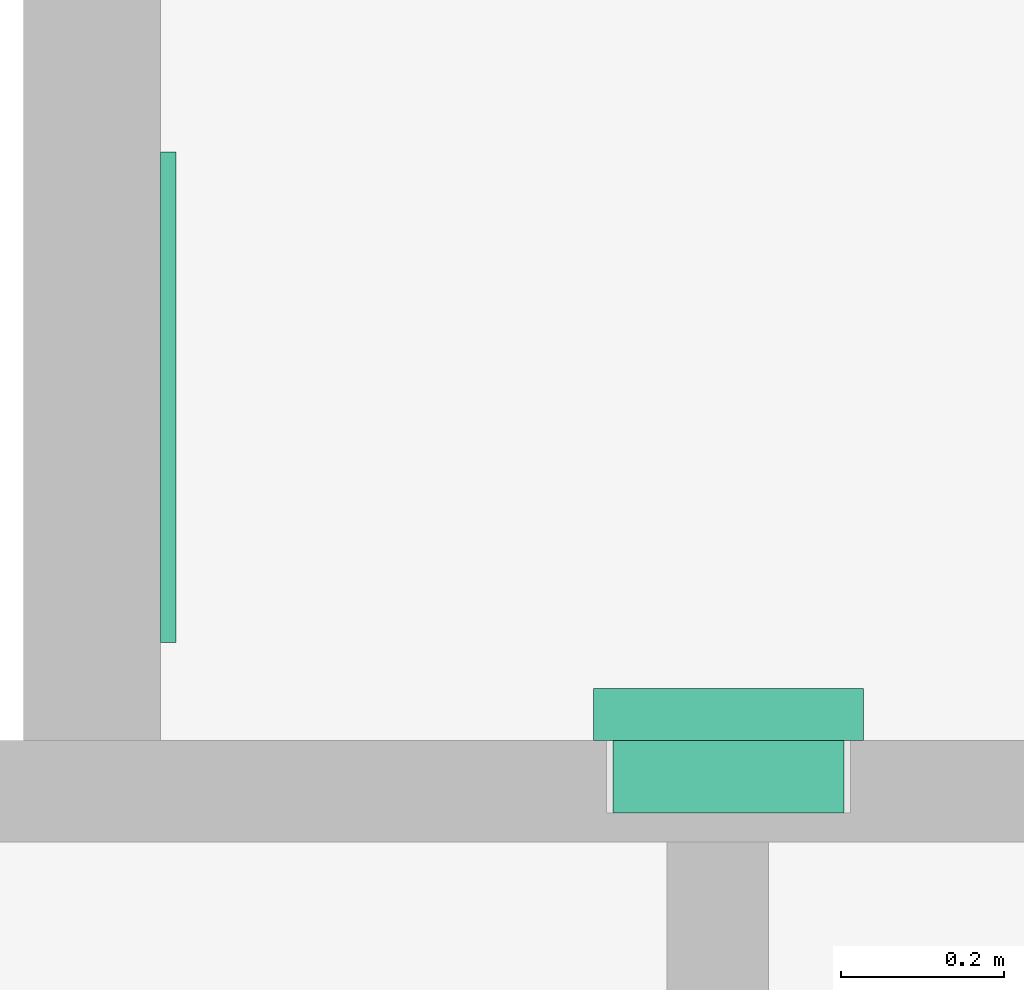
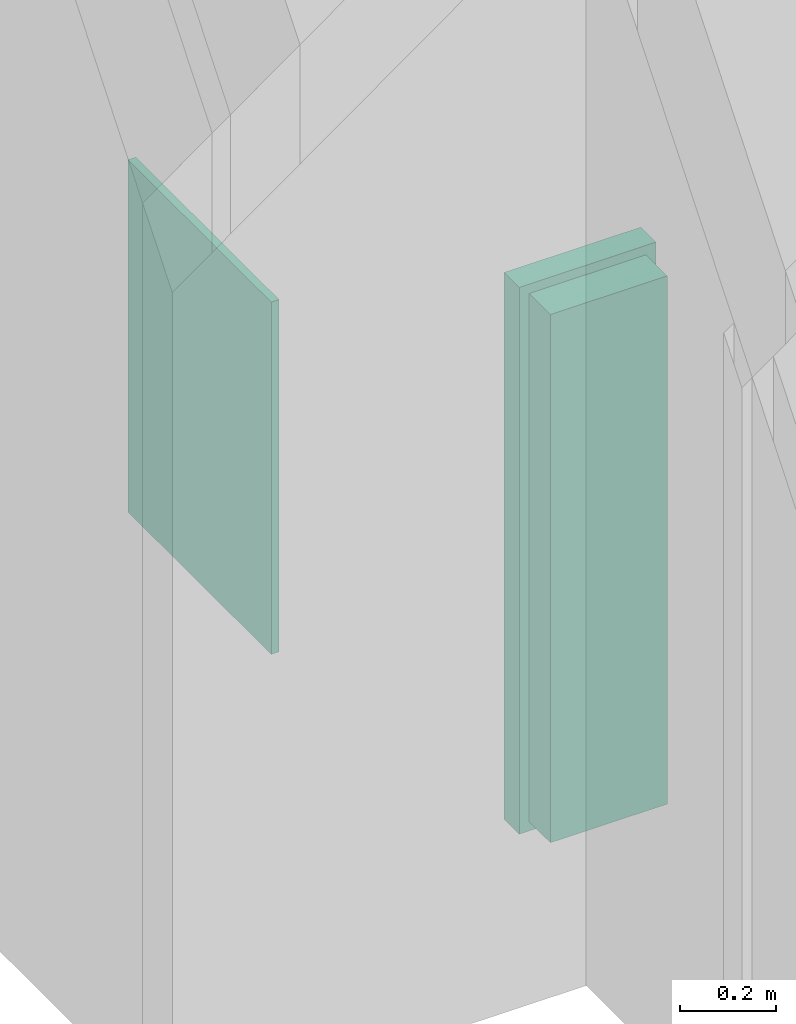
# One storey, part 58 of 87: 2 flow terminals.
"""IFC2X3 building model written with IfcOpenShell, lengths in metres."""

from ifc_helpers import new_model, entity, si_unit, converted_unit, frame, origin, origin_2d_with_axis, place, context, project, spatial, rectangle, extrude, face_set, surface_model, source, transform, mapped, type_object, type_shapes, element, save


model = new_model("IFC2X3")

# Units and contexts
model_context = context("Model", 3, precision=1e-09, world=origin())
plan_context = context("Plan", 3, precision=1e-09, world=origin())
ifc_project = project(units=[si_unit("LENGTHUNIT", "METRE"), si_unit("AREAUNIT", "SQUARE_METRE"), si_unit("VOLUMEUNIT", "CUBIC_METRE"), converted_unit("PLANEANGLEUNIT", "DEGREE", entity("IfcRatioMeasure", 0.01745329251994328), si_unit("PLANEANGLEUNIT", "RADIAN"), dimensions=[0, 0, 0, 0, 0, 0, 0]), si_unit("TIMEUNIT", "SECOND")], contexts=[model_context, plan_context])

# Site, building, storey, space
site_placement = place(None, origin())
site = spatial("IfcSite", under=ifc_project, at=site_placement, Name="Default", CompositionType="ELEMENT")
building_placement = place(site_placement, origin())
building = spatial("IfcBuilding", under=site, at=building_placement, CompositionType="ELEMENT")
storey_placement = place(building_placement, origin())
storey = spatial("IfcBuildingStorey", under=building, at=storey_placement, Name="First Floor", CompositionType="ELEMENT", Elevation=-3.531500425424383e-13)
space_placement = place(storey_placement, origin())
space = spatial("IfcSpace", under=storey, at=space_placement, Name="1B11", CompositionType="ELEMENT", InteriorOrExteriorSpace="INTERNAL")

# Flow terminals
sanitary_terminal_type_1 = type_object("IfcSanitaryTerminalType", Name="Mirror 600mm x 900mm", PredefinedType="NOTDEFINED")
shared_shape_1 = source(origin(), model_context, "Body", "SweptSolid", [
    extrude(rectangle(XDim=0.01905, YDim=0.5999999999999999, at=origin_2d_with_axis()), frame((0.02447030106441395, 0.093525, 1.0), z_axis=(0.0, 0.0, 1.0), x_axis=(0.0, -1.0, 0.0)), (0.0, 0.0, 1.0), 0.8999999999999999),
])
type_shapes(sanitary_terminal_type_1, [shared_shape_1])
flow_terminal_1_placement = place(space_placement, frame((-7.283975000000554, 16.40847030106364, -0.08500000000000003), z_axis=(0.0, 0.0, 1.0), x_axis=(0.0, -1.0, 0.0)))
element("IfcFlowTerminal", 1, at=flow_terminal_1_placement, inside=space, type_object=sanitary_terminal_type_1, Name="M_Mirror:Mirror 600mm x 900mm:Mirror 600mm x 900mm", ObjectType="Mirror 600mm x 900mm", context=model_context, shape_type="MappedRepresentation", body=[
    mapped(shared_shape_1, transform((0.0, 0.0, 0.0), scale=1.0)),
])
sanitary_terminal_type_2 = type_object("IfcSanitaryTerminalType", Name="Semi-Recessed", PredefinedType="NOTDEFINED")
shared_shape_2 = source(origin(), model_context, "Body", "SurfaceModel", [
    surface_model("IfcFaceBasedSurfaceModel", [(0.3047999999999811, 1.371600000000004, 0.006350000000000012), (0.02539999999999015, 1.371600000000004, 0.006350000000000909), (0.02539999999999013, 0.02540000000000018, 0.006350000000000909), (0.3047999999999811, 0.02540000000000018, 0.006350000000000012), (0.3047999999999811, 1.371600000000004, 0.0), (0.02539999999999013, 1.371600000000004, 0.0), (0.02539999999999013, 0.02540000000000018, 0.0), (0.3047999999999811, 0.02540000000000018, 0.0), (0.3047999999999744, 0.8683625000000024, 0.0314087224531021), (0.304799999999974, 0.8683625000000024, 0.0), (0.304799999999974, 1.371600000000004, 0.0), (0.3047999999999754, 1.371600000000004, 0.1396999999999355), (0.3047999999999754, 0.9274310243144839, 0.139699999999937), (0.3047999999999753, 0.9028355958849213, 0.1191121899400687), (0.304799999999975, 0.8840898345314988, 0.09308548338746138), (0.3047999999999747, 0.8723562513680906, 0.06323391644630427), (0.02539999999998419, 0.8683625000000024, 0.03140872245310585), (0.02539999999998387, 0.8683625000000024, 0.0), (0.02539999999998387, 1.371600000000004, 0.0), (0.02539999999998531, 1.371600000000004, 0.1396999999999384), (0.02539999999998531, 0.9274310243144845, 0.1396999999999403), (0.02539999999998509, 0.9028355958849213, 0.1191121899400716), (0.02539999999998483, 0.8840898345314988, 0.09308548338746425), (0.02539999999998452, 0.8723562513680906, 0.06323391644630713), (0.1650999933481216, 0.8971245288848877, 0.1125374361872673), (0.244423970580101, 0.8850007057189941, 0.0947267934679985), (0.3048000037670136, 0.8934627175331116, 0.1060988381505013), (0.225727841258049, 0.8897196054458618, 0.1024402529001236), (0.1240624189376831, 0.8936511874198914, 0.1080563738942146), (0.1443802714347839, 0.89626145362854, 0.1114614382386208), (0.02539999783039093, 0.8934627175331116, 0.1060988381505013), (0.2975995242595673, 0.8728225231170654, 0.06500939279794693), (0.2961554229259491, 0.8724397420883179, 0.06352298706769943), (0.08576729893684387, 0.8849983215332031, 0.09472260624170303), (0.05923719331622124, 0.8781034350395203, 0.0805450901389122), (0.06810294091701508, 0.8800443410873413, 0.08500713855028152), (0.02539999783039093, 0.8811564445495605, 0.08562259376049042), (0.03954862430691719, 0.8766331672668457, 0.07681932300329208), (0.04958875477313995, 0.8769928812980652, 0.07776296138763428), (0.02539999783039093, 0.8782230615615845, 0.07815969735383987), (0.03264534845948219, 0.875198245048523, 0.07281118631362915), (0.02539999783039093, 0.8767563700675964, 0.0744282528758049), (0.02539999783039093, 0.87602299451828, 0.07256253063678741), (0.2946777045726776, 0.8762261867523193, 0.07572414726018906), (0.3048000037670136, 0.8767563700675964, 0.0744282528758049), (0.3048000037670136, 0.8774896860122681, 0.07629397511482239), (0.2906513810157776, 0.8717893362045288, 0.0609215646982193), (0.3048000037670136, 0.871357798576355, 0.05527761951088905), (0.3048000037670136, 0.8718570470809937, 0.05925576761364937), (0.02539999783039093, 0.874556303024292, 0.06883108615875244), (0.03170676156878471, 0.8735430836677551, 0.0675705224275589), (0.03171554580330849, 0.8739543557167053, 0.06892137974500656), (0.104461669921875, 0.889717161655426, 0.1024366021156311), (0.02539999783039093, 0.8752896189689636, 0.07069680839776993), (0.03172433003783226, 0.8743656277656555, 0.07027223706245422), (0.03218483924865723, 0.8747819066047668, 0.07154171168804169), (0.185808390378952, 0.8962624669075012, 0.1114626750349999), (0.3048000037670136, 0.8703593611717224, 0.04732131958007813), (0.2280749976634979, 0.8709259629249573, 0.05697767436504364), (0.2061262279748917, 0.8936530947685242, 0.1080589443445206), (0.3048000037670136, 0.8752896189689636, 0.07069680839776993), (0.297547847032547, 0.8752022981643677, 0.07282306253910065), (0.2980738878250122, 0.8745774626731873, 0.0708826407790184), (0.2985999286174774, 0.8739525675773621, 0.06894221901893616), (0.3048000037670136, 0.874556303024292, 0.06883108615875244), (0.2709419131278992, 0.8781068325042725, 0.08055329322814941), (0.3048000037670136, 0.8811564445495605, 0.08562259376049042), (0.2620970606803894, 0.8800443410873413, 0.08500713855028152), (0.2805894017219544, 0.8769944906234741, 0.07776710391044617), (0.3048000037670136, 0.8782230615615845, 0.07815969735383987), (0.03435983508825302, 0.8722586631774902, 0.06284872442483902), (0.02539999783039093, 0.872106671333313, 0.06124484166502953), (0.0367727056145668, 0.8719081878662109, 0.06142202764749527), (0.2906513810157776, 0.8766331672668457, 0.07681932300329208), (0.02539999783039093, 0.8718570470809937, 0.05925576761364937), (0.3048000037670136, 0.8738229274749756, 0.06696536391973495), (0.2980997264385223, 0.8733875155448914, 0.06697580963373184), (0.3048000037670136, 0.872106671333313, 0.06124484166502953), (0.2947112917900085, 0.8720570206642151, 0.06203658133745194), (0.02539999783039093, 0.8738229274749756, 0.06696536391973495), (0.3048000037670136, 0.873089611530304, 0.06509964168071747), (0.02539999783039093, 0.8774896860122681, 0.07629397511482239), (0.03438528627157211, 0.8759323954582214, 0.07491400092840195), (0.03677724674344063, 0.8764464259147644, 0.07632055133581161), (0.03261014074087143, 0.8728178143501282, 0.0649920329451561), (0.02539999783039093, 0.8703593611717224, 0.04732131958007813), (0.1650999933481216, 0.8683624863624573, 0.03140872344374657), (0.03954862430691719, 0.8717893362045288, 0.0609215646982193), (0.1021250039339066, 0.8709259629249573, 0.05697767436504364), (0.02539999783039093, 0.871357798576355, 0.05527761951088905), (0.02539999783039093, 0.873089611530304, 0.06509964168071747), (0.2961127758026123, 0.8757142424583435, 0.07427360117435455), (0.3048000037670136, 0.87602299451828, 0.07256253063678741), (0.1650999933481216, 0.8701865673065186, 0.05300865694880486), (0.03954862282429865, 0.9617593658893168, 0.06092156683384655), (0.1650999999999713, 0.9617593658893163, 0.05300865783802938), (0.2906513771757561, 0.9617593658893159, 0.06092156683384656), (0.2927086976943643, 0.9617593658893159, 0.06119241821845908), (0.2946258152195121, 0.9617593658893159, 0.06198651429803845), (0.2962720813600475, 0.9617593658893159, 0.06324973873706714), (0.2975353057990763, 0.9617593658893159, 0.06489600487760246), (0.2983294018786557, 0.9617593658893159, 0.06681312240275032), (0.2986002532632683, 0.9617593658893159, 0.06887044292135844), (0.2983294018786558, 0.9617593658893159, 0.07092776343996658), (0.2975353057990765, 0.9617593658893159, 0.0728448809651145), (0.2962720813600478, 0.9617593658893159, 0.07449114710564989), (0.2946258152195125, 0.9617593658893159, 0.07575437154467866), (0.2927086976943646, 0.9617593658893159, 0.07654846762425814), (0.2906513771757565, 0.9617593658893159, 0.07681931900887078), (0.2806776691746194, 0.9617593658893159, 0.07775040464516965), (0.2710486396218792, 0.9617593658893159, 0.0805114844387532), (0.2620970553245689, 0.9617593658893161, 0.0850071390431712), (0.2316919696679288, 0.9617593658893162, 0.1002429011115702), (0.1989754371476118, 0.9617593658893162, 0.1095287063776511), (0.1651000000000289, 0.9617593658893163, 0.1125374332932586), (0.1312245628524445, 0.9617593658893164, 0.109528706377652), (0.09850803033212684, 0.9617593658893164, 0.1002429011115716), (0.06810294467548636, 0.9617593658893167, 0.08500713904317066), (0.05915136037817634, 0.9617593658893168, 0.08051148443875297), (0.04952233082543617, 0.9617593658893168, 0.07775040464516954), (0.03954862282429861, 0.9617593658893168, 0.07681931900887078), (0.03749130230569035, 0.9617593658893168, 0.0765484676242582), (0.03557418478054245, 0.9617593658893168, 0.07575437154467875), (0.03392791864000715, 0.9617593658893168, 0.07449114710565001), (0.03266469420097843, 0.9617593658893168, 0.07284488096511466), (0.03187059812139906, 0.9617593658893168, 0.07092776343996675), (0.03159974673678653, 0.9617593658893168, 0.06887044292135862), (0.03187059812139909, 0.9617593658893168, 0.06681312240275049), (0.03266469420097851, 0.9617593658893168, 0.0648960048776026), (0.03392791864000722, 0.9617593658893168, 0.06324973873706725), (0.03557418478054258, 0.9617593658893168, 0.06198651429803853), (0.03749130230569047, 0.9617593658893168, 0.06119241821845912), (0.3302000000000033, 1.397000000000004, 0.1523999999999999), (0.0, 1.397000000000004, 0.152400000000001), (0.0, 0.0, 0.152400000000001), (0.3302000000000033, 0.0, 0.1523999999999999), (0.03175000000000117, 0.7016793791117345, 0.1524000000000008), (0.03175000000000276, 0.8960819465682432, 0.1524000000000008), (0.03192255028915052, 0.8975521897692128, 0.1524000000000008), (0.03243082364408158, 0.8989425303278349, 0.1524000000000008), (0.03324719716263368, 0.9001774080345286, 0.1524000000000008), (0.03432730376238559, 0.9011897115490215, 0.1524000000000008), (0.03561244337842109, 0.9019244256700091, 0.1524000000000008), (0.03703277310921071, 0.9023416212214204, 0.1524000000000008), (0.1222300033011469, 0.9119737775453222, 0.1524000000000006), (0.2079699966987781, 0.911973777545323, 0.1524000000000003), (0.2931672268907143, 0.902341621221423, 0.1524), (0.2945875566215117, 0.9019244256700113, 0.1524), (0.2958726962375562, 0.9011897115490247, 0.1524), (0.2969528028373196, 0.9001774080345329, 0.1524), (0.297769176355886, 0.8989425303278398, 0.1524), (0.2982774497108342, 0.8975521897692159, 0.1524), (0.2984500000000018, 0.8960819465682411, 0.1524), (0.2984500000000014, 0.7016793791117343, 0.1524), (0.2982774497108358, 0.7002091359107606, 0.1524), (0.2977691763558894, 0.6988187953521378, 0.1524), (0.2969528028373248, 0.697583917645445, 0.1524), (0.2958726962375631, 0.6965716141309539, 0.1524), (0.29458755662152, 0.6958369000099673, 0.1524), (0.2931672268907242, 0.6954197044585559, 0.1524), (0.2079699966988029, 0.6857875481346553, 0.1524000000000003), (0.1222300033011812, 0.6857875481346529, 0.1524000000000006), (0.03703277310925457, 0.6954197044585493, 0.1524000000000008), (0.03561244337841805, 0.6958369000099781, 0.1524000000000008), (0.0343273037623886, 0.6965716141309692, 0.1524000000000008), (0.03324719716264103, 0.6975839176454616, 0.1524000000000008), (0.03243082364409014, 0.698818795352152, 0.1524000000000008), (0.03192255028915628, 0.7002091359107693, 0.1524000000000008), (0.3063874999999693, 1.373187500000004, 0.0), (0.02381249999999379, 1.373187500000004, 0.0), (0.02381249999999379, 0.02381250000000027, 0.0), (0.3063874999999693, 0.02381250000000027, 0.0), (0.3047999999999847, 1.371600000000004, 0.0), (0.3047999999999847, 0.02540000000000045, 0.0), (0.02539999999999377, 0.02540000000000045, 0.0), (0.02539999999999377, 1.371600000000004, 0.0), (0.304799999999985, 1.371600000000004, 0.08889999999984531), (0.3047999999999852, 1.371600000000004, 0.1396999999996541), (0.3047999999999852, 0.02540000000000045, 0.1396999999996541), (0.304799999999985, 0.02540000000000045, 0.08889999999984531), (0.02539999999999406, 0.02540000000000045, 0.08889999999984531), (0.02539999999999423, 0.02540000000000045, 0.139699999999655), (0.02539999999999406, 1.371600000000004, 0.08889999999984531), (0.02539999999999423, 1.371600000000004, 0.139699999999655), (0.02381249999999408, 1.373187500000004, 0.08889999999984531), (0.3063874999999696, 1.373187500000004, 0.08889999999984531), (0.02381249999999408, 0.02381250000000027, 0.08889999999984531), (0.3063874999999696, 0.02381250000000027, 0.08889999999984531), (0.3302000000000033, 1.397000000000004, 0.08889999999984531), (0.0, 1.397000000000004, 0.08889999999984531), (0.0, 0.0, 0.08889999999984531), (0.3302000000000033, 0.0, 0.08889999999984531), (0.3302000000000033, 1.397000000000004, 0.1396999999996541), (0.0, 1.397000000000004, 0.1396999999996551), (0.0, 0.0, 0.1396999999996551), (0.3302000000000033, 0.0, 0.1396999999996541), (0.0317500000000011, 0.7016793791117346, 0.139699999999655), (0.03175000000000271, 0.8960819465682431, 0.139699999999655), (0.03192255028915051, 0.8975521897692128, 0.139699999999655), (0.03243082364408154, 0.8989425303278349, 0.139699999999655), (0.03324719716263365, 0.9001774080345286, 0.139699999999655), (0.03432730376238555, 0.9011897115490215, 0.139699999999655), (0.03561244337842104, 0.9019244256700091, 0.139699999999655), (0.03703277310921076, 0.9023416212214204, 0.139699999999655), (0.1222300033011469, 0.9119737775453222, 0.1396999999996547), (0.207969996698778, 0.911973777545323, 0.1396999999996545), (0.2931672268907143, 0.902341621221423, 0.1396999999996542), (0.2945875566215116, 0.9019244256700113, 0.1396999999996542), (0.2958726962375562, 0.9011897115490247, 0.1396999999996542), (0.2969528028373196, 0.9001774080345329, 0.1396999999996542), (0.2977691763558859, 0.8989425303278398, 0.1396999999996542), (0.2982774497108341, 0.8975521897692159, 0.1396999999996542), (0.2984500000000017, 0.8960819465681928, 0.1396999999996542), (0.2984500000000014, 0.7016793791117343, 0.1396999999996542), (0.2982774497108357, 0.7002091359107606, 0.1396999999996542), (0.2977691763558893, 0.6988187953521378, 0.1396999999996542), (0.2969528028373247, 0.697583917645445, 0.1396999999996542), (0.295872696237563, 0.6965716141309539, 0.1396999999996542), (0.29458755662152, 0.6958369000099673, 0.1396999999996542), (0.2931672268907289, 0.6954197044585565, 0.1396999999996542), (0.2079699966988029, 0.6857875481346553, 0.1396999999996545), (0.1222300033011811, 0.6857875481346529, 0.1396999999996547), (0.0370327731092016, 0.6954197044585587, 0.139699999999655), (0.03561244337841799, 0.6958369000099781, 0.139699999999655), (0.03432730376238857, 0.6965716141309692, 0.139699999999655), (0.03324719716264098, 0.6975839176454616, 0.139699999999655), (0.03243082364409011, 0.698818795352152, 0.139699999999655), (0.03192255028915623, 0.7002091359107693, 0.139699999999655), (0.02698749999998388, 0.6774923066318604, 0.1206361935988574), (0.02698749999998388, 0.6858000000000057, 0.1206361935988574), (0.02698749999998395, 0.6858000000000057, 0.1397000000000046), (0.02698749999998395, 0.0253999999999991, 0.1397000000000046), (0.02698749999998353, 0.0253999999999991, 0.007937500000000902), (0.02698749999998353, 0.7076898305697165, 0.007937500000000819), (0.3032124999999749, 0.6774923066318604, 0.1206361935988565), (0.3032124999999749, 0.6858000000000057, 0.1206361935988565), (0.3032124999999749, 0.6858000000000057, 0.1397000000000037), (0.3032124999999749, 0.0253999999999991, 0.1397000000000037), (0.3032124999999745, 0.0253999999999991, 0.007937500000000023), (0.3032124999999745, 0.7076898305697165, 0.007937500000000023)], [face_set([[[0, 1, 2, 3]], [[4, 5, 6, 7]], [[1, 0, 4, 5]], [[2, 6, 5, 1]], [[3, 7, 6, 2]], [[0, 3, 7, 4]]]), face_set([[[8, 9, 10, 11, 12, 13, 14, 15]], [[16, 17, 18, 19, 20, 21, 22, 23]], [[9, 8, 16, 17]], [[10, 18, 17, 9]], [[11, 19, 18, 10]], [[12, 11, 19, 20]], [[24, 20, 21]], [[25, 26, 27]], [[28, 29, 21]], [[28, 21, 30]], [[15, 31, 32]], [[22, 33, 30]], [[24, 21, 29]], [[34, 35, 36]], [[37, 38, 39]], [[40, 41, 42]], [[39, 38, 34]], [[22, 35, 33]], [[39, 34, 36]], [[43, 44, 45]], [[46, 47, 48]], [[49, 50, 51]], [[33, 52, 30]], [[53, 54, 55]], [[24, 56, 13]], [[57, 47, 58]], [[24, 13, 12]], [[13, 56, 59]], [[59, 27, 26]], [[60, 61, 62]], [[62, 63, 64]], [[24, 12, 20]], [[55, 42, 53]], [[65, 66, 67]], [[25, 67, 14]], [[25, 14, 26]], [[65, 68, 69]], [[66, 65, 69]], [[70, 71, 72]], [[69, 68, 73]], [[72, 71, 74]], [[26, 13, 59]], [[54, 53, 49]], [[64, 60, 62]], [[75, 63, 76]], [[46, 77, 78]], [[79, 50, 49]], [[80, 76, 31]], [[39, 81, 37]], [[41, 82, 81]], [[49, 51, 54]], [[81, 82, 83]], [[40, 82, 41]], [[70, 84, 23]], [[84, 50, 79]], [[85, 16, 86]], [[28, 30, 52]], [[70, 23, 71]], [[87, 72, 74]], [[85, 88, 89]], [[87, 89, 88]], [[74, 89, 87]], [[84, 90, 23]], [[58, 47, 46]], [[35, 22, 36]], [[63, 75, 64]], [[91, 61, 92]], [[45, 73, 43]], [[80, 75, 76]], [[61, 60, 92]], [[15, 32, 78]], [[45, 69, 73]], [[92, 44, 91]], [[66, 14, 67]], [[84, 79, 90]], [[85, 93, 88]], [[86, 57, 93]], [[31, 15, 80]], [[77, 15, 78]], [[42, 55, 40]], [[58, 93, 57]], [[77, 46, 48]], [[8, 57, 86]], [[37, 81, 83]], [[44, 43, 91]], [[85, 86, 93]], [[94, 95, 96, 97, 98, 99, 100, 101, 102, 103, 104, 105, 106, 107, 108, 109, 110, 111, 112, 113, 114, 115, 116, 117, 118, 119, 120, 121, 122, 123, 124, 125, 126, 127, 128, 129, 130, 131]], [[95, 94, 87, 88, 93]], [[96, 95, 93, 58, 46]], [[46, 96, 97]], [[78, 98, 99]], [[97, 98, 78]], [[99, 100, 31]], [[46, 97, 78]], [[63, 31, 101]], [[31, 78, 99]], [[63, 101, 102]], [[101, 31, 100]], [[61, 104, 105]], [[43, 106, 107]], [[105, 106, 43]], [[73, 107, 108]], [[63, 103, 61]], [[103, 63, 102]], [[61, 103, 104]], [[61, 105, 43]], [[107, 73, 43]], [[108, 68, 73]], [[68, 108, 109]], [[109, 65, 68]], [[110, 67, 65]], [[67, 110, 111]], [[109, 110, 65]], [[111, 112, 25]], [[25, 67, 111]], [[27, 25, 112]], [[112, 59, 27]], [[113, 114, 56]], [[56, 59, 113]], [[24, 56, 114]], [[113, 59, 112]], [[114, 115, 29]], [[29, 24, 114]], [[28, 29, 115]], [[115, 116, 28]], [[116, 117, 33]], [[33, 52, 116]], [[35, 33, 117]], [[116, 52, 28]], [[118, 34, 35]], [[35, 117, 118]], [[118, 119, 34]], [[120, 37, 38]], [[38, 119, 120]], [[34, 119, 38]], [[37, 120, 121]], [[82, 122, 123]], [[121, 122, 83]], [[123, 124, 40]], [[37, 121, 83]], [[83, 122, 82]], [[40, 125, 54]], [[40, 82, 123]], [[54, 125, 126]], [[40, 124, 125]], [[84, 127, 128]], [[129, 84, 128]], [[72, 130, 131]], [[129, 130, 70]], [[87, 131, 94]], [[127, 50, 126]], [[127, 84, 50]], [[126, 50, 54]], [[70, 84, 129]], [[130, 72, 70]], [[131, 87, 72]]]), face_set([[[132, 133, 134, 135], [136, 137, 138, 139, 140, 141, 142, 143, 144, 145, 146, 147, 148, 149, 150, 151, 152, 153, 154, 155, 156, 157, 158, 159, 160, 161, 162, 163, 164, 165, 166, 167]], [[168, 169, 170, 171], [172, 173, 174, 175]], [[172, 176, 177, 178, 179, 173]], [[173, 174, 180, 181, 178, 179]], [[174, 175, 182, 183, 181, 180]], [[175, 182, 183, 177, 176, 172]], [[168, 169, 184, 185]], [[169, 184, 186, 170]], [[170, 186, 187, 171]], [[171, 168, 185, 187]], [[188, 189, 190, 191], [185, 187, 186, 184]], [[133, 132, 192, 188, 189, 193]], [[134, 133, 193, 189, 190, 194]], [[135, 134, 194, 190, 191, 195]], [[132, 135, 195, 191, 188, 192]], [[177, 183, 181, 178], [196, 197, 198, 199, 200, 201, 202, 203, 204, 205, 206, 207, 208, 209, 210, 211, 212, 213, 214, 215, 216, 217, 218, 219, 220, 221, 222, 223, 224, 225, 226, 227]], [[137, 136, 196, 197]], [[198, 197, 137, 138]], [[199, 198, 138, 139]], [[139, 140, 200, 199]], [[202, 201, 141, 142]], [[203, 202, 142, 143]], [[140, 141, 201, 200]], [[203, 143, 144, 204]], [[145, 205, 204, 144]], [[205, 145, 146, 206]], [[207, 206, 146, 147]], [[208, 207, 147, 148]], [[148, 149, 209, 208]], [[212, 211, 151, 152]], [[211, 210, 150, 151]], [[149, 150, 210, 209]], [[153, 213, 212, 152]], [[214, 213, 153, 154]], [[215, 214, 154, 155]], [[155, 156, 216, 215]], [[218, 217, 157, 158]], [[219, 218, 158, 159]], [[156, 157, 217, 216]], [[219, 159, 160, 220]], [[161, 221, 220, 160]], [[221, 161, 162, 222]], [[223, 222, 162, 163]], [[224, 223, 163, 164]], [[164, 165, 225, 224]], [[227, 226, 166, 167]], [[196, 227, 167, 136]], [[165, 166, 226, 225]]]), face_set([[[228, 229, 230, 231, 232, 233]], [[234, 235, 236, 237, 238, 239]], [[233, 228, 234, 239]], [[232, 238, 239, 233]], [[231, 237, 238, 232]], [[230, 231, 237, 236]], [[229, 230, 236, 235]], [[228, 234, 235, 229]]])]),
])
type_shapes(sanitary_terminal_type_2, [shared_shape_2])
flow_terminal_2_placement = place(space_placement, frame((-6.339800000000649, 15.87509999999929, 0.3428999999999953), z_axis=(0.0, 1.0, 0.0), x_axis=(-1.0, 0.0, 0.0)))
element("IfcFlowTerminal", 2, at=flow_terminal_2_placement, inside=space, type_object=sanitary_terminal_type_2, Name="M_Towel Dispensers - receptical:Semi-Recessed:Semi-Recessed", ObjectType="Semi-Recessed", context=model_context, shape_type="MappedRepresentation", body=[
    mapped(shared_shape_2, transform((0.0, 0.0, 0.0), scale=1.0)),
])

save(model, "model.ifc")
